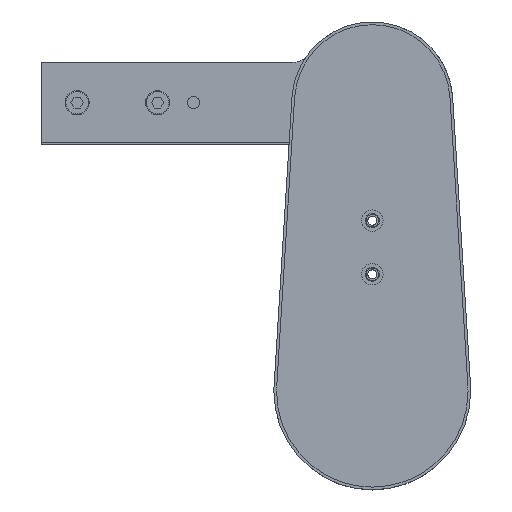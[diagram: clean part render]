
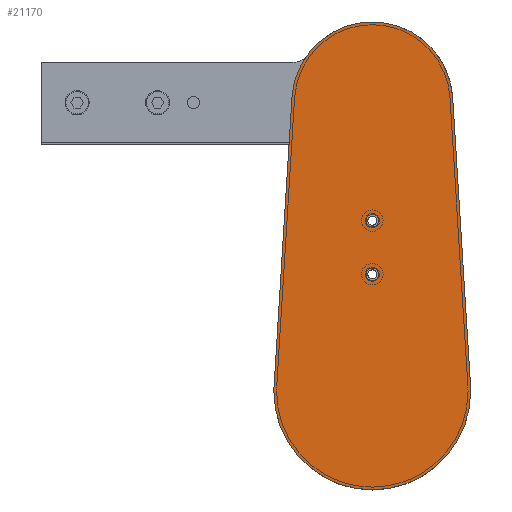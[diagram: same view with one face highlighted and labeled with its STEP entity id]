
A CAD part, top view. The second image highlights one B-rep face of the part: STEP entity #21170.
In plain terms, the highlighted planar face has unit normal (0, 0, 1) as drawn and (0, 0, -1) by its records, which use the part's own axes.
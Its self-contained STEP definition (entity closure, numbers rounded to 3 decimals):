
#798 = AXIS2_PLACEMENT_3D ( 'NONE', #31667, #7581, #28678 ) ;
#1254 = DIRECTION ( 'NONE',  ( 1., 0., 0. ) ) ;
#1337 = DIRECTION ( 'NONE',  ( 1., 0., 0. ) ) ;
#1662 = CARTESIAN_POINT ( 'NONE',  ( 3.5, 65.5, 0. ) ) ;
#3701 = VERTEX_POINT ( 'NONE', #32620 ) ;
#4194 = DIRECTION ( 'NONE',  ( 1., 0., 0. ) ) ;
#4450 = VERTEX_POINT ( 'NONE', #19724 ) ;
#4465 = AXIS2_PLACEMENT_3D ( 'NONE', #8522, #38573, #26763 ) ;
#4794 = ORIENTED_EDGE ( 'NONE', *, *, #24284, .F. ) ;
#4971 = ORIENTED_EDGE ( 'NONE', *, *, #23762, .F. ) ;
#5654 = DIRECTION ( 'NONE',  ( 0., 0., 1. ) ) ;
#5705 = AXIS2_PLACEMENT_3D ( 'NONE', #15566, #6745, #1254 ) ;
#5778 = CARTESIAN_POINT ( 'NONE',  ( 0., 0., 0. ) ) ;
#5905 = DIRECTION ( 'NONE',  ( 1., 0., 0. ) ) ;
#6182 = EDGE_CURVE ( 'NONE', #24650, #11422, #10776, .T. ) ;
#6296 = VERTEX_POINT ( 'NONE', #37617 ) ;
#6745 = DIRECTION ( 'NONE',  ( 0., 0., -1. ) ) ;
#6940 = DIRECTION ( 'NONE',  ( -0.062, 0.998, 0. ) ) ;
#7203 = DIRECTION ( 'NONE',  ( 0., 0., 1. ) ) ;
#7581 = DIRECTION ( 'NONE',  ( 0., 0., -1. ) ) ;
#7591 = CARTESIAN_POINT ( 'NONE',  ( 0., 0., 0. ) ) ;
#7710 = FACE_BOUND ( 'NONE', #12485, .T. ) ;
#8522 = CARTESIAN_POINT ( 'NONE',  ( 0., 161.5, 0. ) ) ;
#8557 = AXIS2_PLACEMENT_3D ( 'NONE', #21686, #9626, #4194 ) ;
#8582 = DIRECTION ( 'NONE',  ( -0.062, -0.998, 0. ) ) ;
#8646 = CARTESIAN_POINT ( 'NONE',  ( -44.914, 164.286, 0. ) ) ;
#9076 = ORIENTED_EDGE ( 'NONE', *, *, #36140, .F. ) ;
#9626 = DIRECTION ( 'NONE',  ( 0., 0., -1. ) ) ;
#10264 = DIRECTION ( 'NONE',  ( 0., 0., 1. ) ) ;
#10776 = CIRCLE ( 'NONE', #798, 3.5 ) ;
#10849 = EDGE_CURVE ( 'NONE', #6296, #30441, #22174, .T. ) ;
#10931 = VERTEX_POINT ( 'NONE', #24824 ) ;
#11422 = VERTEX_POINT ( 'NONE', #30349 ) ;
#11943 = LINE ( 'NONE', #14563, #17575 ) ;
#12485 = EDGE_LOOP ( 'NONE', ( #4794, #33922 ) ) ;
#12569 = CIRCLE ( 'NONE', #31590, 55. ) ;
#13307 = ORIENTED_EDGE ( 'NONE', *, *, #37856, .F. ) ;
#13378 = DIRECTION ( 'NONE',  ( 0., 0., -1. ) ) ;
#14563 = CARTESIAN_POINT ( 'NONE',  ( -44.914, 164.286, 0. ) ) ;
#15566 = CARTESIAN_POINT ( 'NONE',  ( 0., 65.5, 0. ) ) ;
#15617 = FACE_BOUND ( 'NONE', #25874, .T. ) ;
#15855 = CIRCLE ( 'NONE', #28461, 3.5 ) ;
#16220 = EDGE_CURVE ( 'NONE', #11422, #24650, #37344, .T. ) ;
#16841 = CIRCLE ( 'NONE', #30962, 55. ) ;
#17170 = CARTESIAN_POINT ( 'NONE',  ( 3.5, 95.5, 0. ) ) ;
#17575 = VECTOR ( 'NONE', #8582, 1000. ) ;
#18893 = ORIENTED_EDGE ( 'NONE', *, *, #10849, .F. ) ;
#19528 = VECTOR ( 'NONE', #6940, 1000. ) ;
#19724 = CARTESIAN_POINT ( 'NONE',  ( 55., 0., 0. ) ) ;
#20217 = EDGE_CURVE ( 'NONE', #10931, #37570, #33348, .T. ) ;
#20672 = PLANE ( 'NONE',  #4465 ) ;
#20797 = FACE_OUTER_BOUND ( 'NONE', #25642, .T. ) ;
#20831 = EDGE_CURVE ( 'NONE', #3701, #24950, #31917, .T. ) ;
#21170 = ADVANCED_FACE ( 'NONE', ( #15617, #7710, #20797 ), #20672, .F. ) ;
#21266 = ORIENTED_EDGE ( 'NONE', *, *, #20217, .F. ) ;
#21686 = CARTESIAN_POINT ( 'NONE',  ( 0., 95.5, 0. ) ) ;
#21843 = ORIENTED_EDGE ( 'NONE', *, *, #16220, .F. ) ;
#22057 = DIRECTION ( 'NONE',  ( 1., 0., 0. ) ) ;
#22174 = CIRCLE ( 'NONE', #26360, 45. ) ;
#22742 = VERTEX_POINT ( 'NONE', #37717 ) ;
#23762 = EDGE_CURVE ( 'NONE', #4450, #22742, #16841, .T. ) ;
#24284 = EDGE_CURVE ( 'NONE', #24950, #3701, #15855, .T. ) ;
#24650 = VERTEX_POINT ( 'NONE', #17170 ) ;
#24824 = CARTESIAN_POINT ( 'NONE',  ( -54.894, 3.406, 0. ) ) ;
#24950 = VERTEX_POINT ( 'NONE', #1662 ) ;
#25065 = CARTESIAN_POINT ( 'NONE',  ( -55., 0., 0. ) ) ;
#25414 = CARTESIAN_POINT ( 'NONE',  ( 0., 65.5, 0. ) ) ;
#25642 = EDGE_LOOP ( 'NONE', ( #18893, #9076, #4971, #30014, #21266, #13307 ) ) ;
#25712 = DIRECTION ( 'NONE',  ( 0., 0., 1. ) ) ;
#25874 = EDGE_LOOP ( 'NONE', ( #27657, #21843 ) ) ;
#26360 = AXIS2_PLACEMENT_3D ( 'NONE', #33731, #7203, #1337 ) ;
#26763 = DIRECTION ( 'NONE',  ( 1., 0., 0. ) ) ;
#27423 = LINE ( 'NONE', #36285, #19528 ) ;
#27657 = ORIENTED_EDGE ( 'NONE', *, *, #6182, .F. ) ;
#28461 = AXIS2_PLACEMENT_3D ( 'NONE', #25414, #13378, #22057 ) ;
#28678 = DIRECTION ( 'NONE',  ( 1., 0., 0. ) ) ;
#28821 = DIRECTION ( 'NONE',  ( 1., 0., 0. ) ) ;
#29720 = EDGE_CURVE ( 'NONE', #37570, #4450, #12569, .T. ) ;
#30014 = ORIENTED_EDGE ( 'NONE', *, *, #29720, .F. ) ;
#30349 = CARTESIAN_POINT ( 'NONE',  ( -3.5, 95.5, 0. ) ) ;
#30441 = VERTEX_POINT ( 'NONE', #8646 ) ;
#30638 = AXIS2_PLACEMENT_3D ( 'NONE', #31371, #10264, #30988 ) ;
#30962 = AXIS2_PLACEMENT_3D ( 'NONE', #7591, #25712, #28821 ) ;
#30988 = DIRECTION ( 'NONE',  ( 1., 0., 0. ) ) ;
#31371 = CARTESIAN_POINT ( 'NONE',  ( 0., 0., 0. ) ) ;
#31590 = AXIS2_PLACEMENT_3D ( 'NONE', #5778, #5654, #5905 ) ;
#31667 = CARTESIAN_POINT ( 'NONE',  ( 0., 95.5, 0. ) ) ;
#31917 = CIRCLE ( 'NONE', #5705, 3.5 ) ;
#32620 = CARTESIAN_POINT ( 'NONE',  ( -3.5, 65.5, 0. ) ) ;
#33348 = CIRCLE ( 'NONE', #30638, 55. ) ;
#33731 = CARTESIAN_POINT ( 'NONE',  ( 0., 161.5, 0. ) ) ;
#33922 = ORIENTED_EDGE ( 'NONE', *, *, #20831, .F. ) ;
#36140 = EDGE_CURVE ( 'NONE', #22742, #6296, #27423, .T. ) ;
#36285 = CARTESIAN_POINT ( 'NONE',  ( 44.914, 164.286, 0. ) ) ;
#37344 = CIRCLE ( 'NONE', #8557, 3.5 ) ;
#37570 = VERTEX_POINT ( 'NONE', #25065 ) ;
#37617 = CARTESIAN_POINT ( 'NONE',  ( 44.914, 164.286, 0. ) ) ;
#37717 = CARTESIAN_POINT ( 'NONE',  ( 54.894, 3.406, 0. ) ) ;
#37856 = EDGE_CURVE ( 'NONE', #30441, #10931, #11943, .T. ) ;
#38573 = DIRECTION ( 'NONE',  ( 0., 0., 1. ) ) ;
